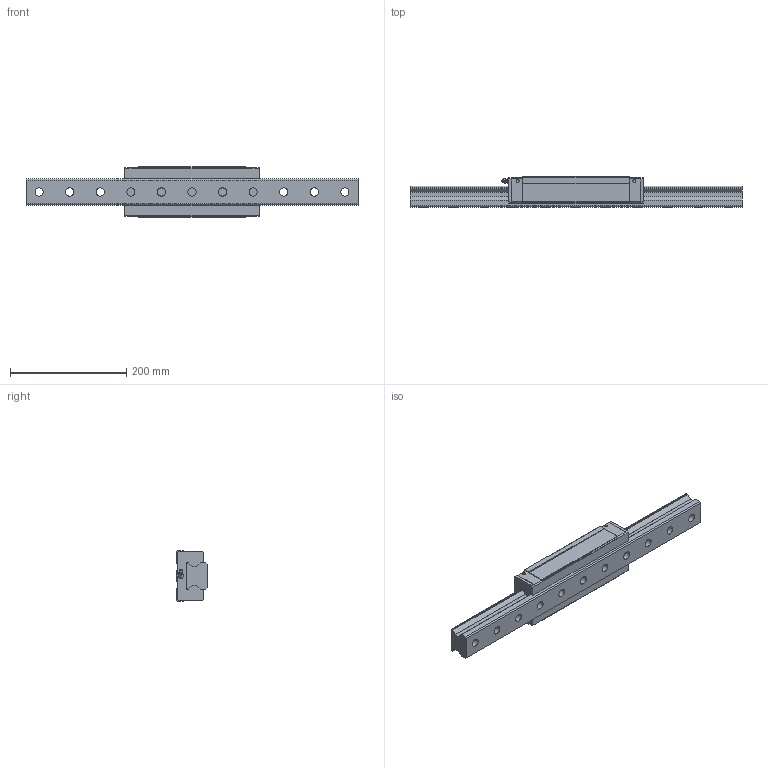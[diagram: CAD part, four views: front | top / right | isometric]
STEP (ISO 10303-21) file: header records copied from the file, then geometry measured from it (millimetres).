
FILE_DESCRIPTION(/* description */ ('STEP AP203'),/* implementation_level */ '2;1');
FILE_NAME(/* name */ 'SRN45SLR1SS-570L_G22-5_0_B-M6F_169-25_0_0_0_1',/* time_stamp */ '2024-05-23T10:58:29+02:00',/* author */ ('License CC BY-ND 4.0'),/* organization */ ('CADENAS'),/* preprocessor_version */ 'ST-DEVELOPER v19.3',/* originating_system */ 'PARTsolutions',/* authorisation */ ' ');
FILE_SCHEMA (('CONFIG_CONTROL_DESIGN'));
Length unit declared in the file: millimetre
Products named in the file (4): SRN45SLR1SS-570L_G22-5_0_B-M6F_169-25_0_0_0_1; SRN45SLR57022.5 Track; SRN45SLRSSB-M6F1 Slide35-65; B-M6F-SRN_grease_nipple_joint
Assembly tree (3 placements, depth 2):
  SRN45SLR1SS-570L_G22-5_0_B-M6F_169-25_0_0_0_1
    SRN45SLR57022.5 Track
    SRN45SLRSSB-M6F1 Slide35-65
    B-M6F-SRN_grease_nipple_joint
Bounding box: 570 x 52 x 86 mm (x, y, z)
Volume: 1336840.3 mm3; surface area: 201854.2 mm2
Topology: 3 solids, 3 shells, 230 faces, 591 edges, 383 vertices
Faces by surface type: plane 129, cylinder 65, cone 31, sphere 3, torus 2
Full cylindrical faces by diameter (mm): 4.917 x2, 5.2 x4, 6 x1, 8 x1, 8.376 x9, 14 x11, 20 x11
Entity records: 6695 total; most frequent: CARTESIAN_POINT 1216, DIRECTION 1110, ORIENTED_EDGE 1010, EDGE_CURVE 505, AXIS2_PLACEMENT_3D 395, VERTEX_POINT 377, FACE_BOUND 348, EDGE_LOOP 337
